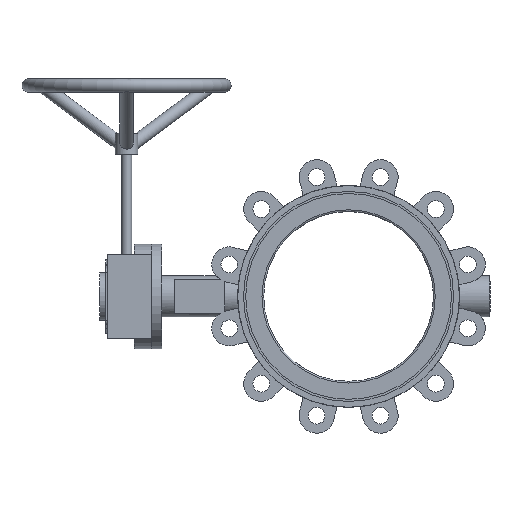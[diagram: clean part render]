
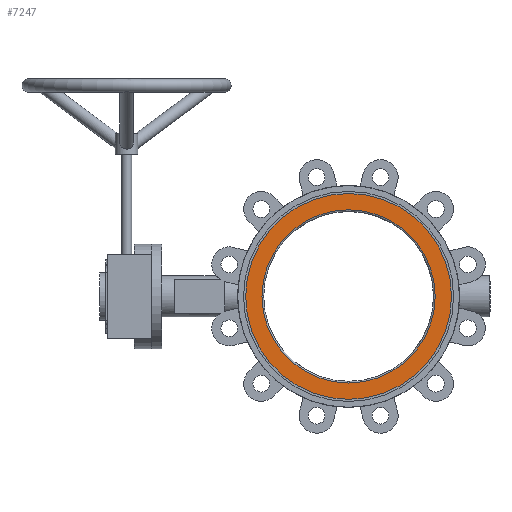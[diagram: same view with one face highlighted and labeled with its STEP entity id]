
A CAD part, left-side view. The second image highlights one B-rep face of the part: STEP entity #7247.
In plain terms, the highlighted planar face has unit normal (-1, 0, 0).
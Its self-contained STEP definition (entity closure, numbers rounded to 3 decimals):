
#651 = CARTESIAN_POINT ( 'NONE',  ( -32., 0., 0. ) ) ;
#721 = EDGE_LOOP ( 'NONE', ( #8322 ) ) ;
#1044 = VERTEX_POINT ( 'NONE', #1718 ) ;
#1174 = FACE_BOUND ( 'NONE', #6345, .T. ) ;
#1600 = CIRCLE ( 'NONE', #6569, 103.501 ) ;
#1718 = CARTESIAN_POINT ( 'NONE',  ( -32., 0., 103.501 ) ) ;
#1827 = AXIS2_PLACEMENT_3D ( 'NONE', #1960, #2651, #3315 ) ;
#1960 = CARTESIAN_POINT ( 'NONE',  ( -32., 0., 0. ) ) ;
#2014 = DIRECTION ( 'NONE',  ( 1., 0., 0. ) ) ;
#2651 = DIRECTION ( 'NONE',  ( -1., 0., 0. ) ) ;
#3051 = PLANE ( 'NONE',  #4206 ) ;
#3315 = DIRECTION ( 'NONE',  ( 0., 0., 1. ) ) ;
#3453 = DIRECTION ( 'NONE',  ( -1., 0., 0. ) ) ;
#3881 = CIRCLE ( 'NONE', #1827, 123. ) ;
#4206 = AXIS2_PLACEMENT_3D ( 'NONE', #5868, #2014, #5316 ) ;
#4715 = EDGE_CURVE ( 'NONE', #1044, #1044, #1600, .T. ) ;
#5316 = DIRECTION ( 'NONE',  ( 0., 0., -1. ) ) ;
#5439 = CARTESIAN_POINT ( 'NONE',  ( -32., 0., 123. ) ) ;
#5868 = CARTESIAN_POINT ( 'NONE',  ( -32., 123., 0. ) ) ;
#5949 = FACE_OUTER_BOUND ( 'NONE', #721, .T. ) ;
#6345 = EDGE_LOOP ( 'NONE', ( #8356 ) ) ;
#6547 = VERTEX_POINT ( 'NONE', #5439 ) ;
#6569 = AXIS2_PLACEMENT_3D ( 'NONE', #651, #3453, #8072 ) ;
#7247 = ADVANCED_FACE ( 'NONE', ( #1174, #5949 ), #3051, .F. ) ;
#7260 = EDGE_CURVE ( 'NONE', #6547, #6547, #3881, .T. ) ;
#8072 = DIRECTION ( 'NONE',  ( 0., 0., 1. ) ) ;
#8322 = ORIENTED_EDGE ( 'NONE', *, *, #7260, .T. ) ;
#8356 = ORIENTED_EDGE ( 'NONE', *, *, #4715, .F. ) ;
